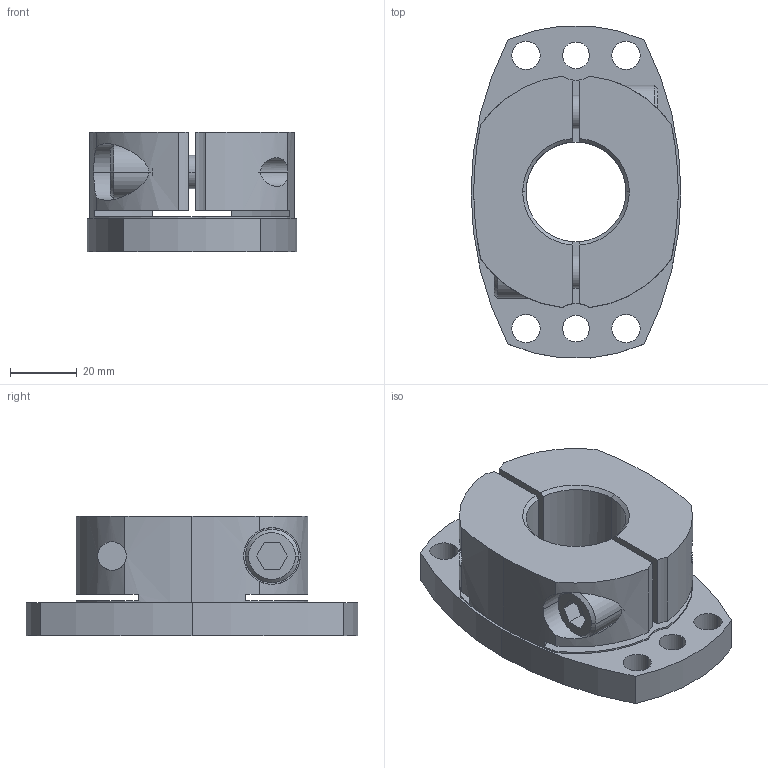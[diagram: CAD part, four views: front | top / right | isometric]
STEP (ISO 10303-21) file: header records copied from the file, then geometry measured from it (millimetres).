
FILE_DESCRIPTION((''),'2;1');
FILE_NAME('SHDB-100B-30.stp','2026-01-28T08:41:06',(''),(''),'AutoCAD STEP 2000i','AutoCAD 2000i',', , ');
FILE_SCHEMA(('CONFIG_CONTROL_DESIGN'));
Length unit declared in the file: millimetre
Products named in the file (2): SHDB-100B-28; 忣兜1
Assembly tree (1 placements, depth 2):
  SHDB-100B-28
    忣兜1
Bounding box: 63 x 99.64 x 36 mm (x, y, z)
Volume: 110306.8 mm3; surface area: 29746.9 mm2
Topology: 1 solids, 1 shells, 102 faces, 280 edges, 184 vertices
Faces by surface type: cylinder 58, plane 34, cone 10
Entity records: 3683 total; most frequent: CARTESIAN_POINT 856, DIRECTION 602, ORIENTED_EDGE 560, EDGE_CURVE 280, AXIS2_PLACEMENT_3D 238, VERTEX_POINT 184, CIRCLE 134, VECTOR 126
